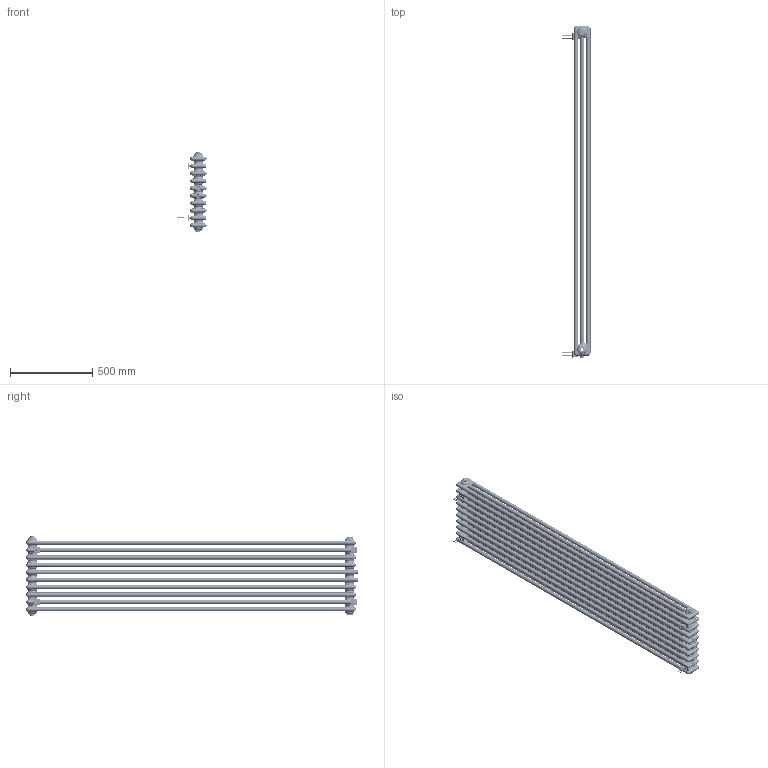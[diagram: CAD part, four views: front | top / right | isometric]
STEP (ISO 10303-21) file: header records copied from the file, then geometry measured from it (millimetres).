
FILE_DESCRIPTION(/* description */ (''),/* implementation_level */ '2;1');
FILE_NAME(/* name */ 'CL03 2000x470',/* time_stamp */ '2023-09-09T16:52:27+08:00',/* author */ (''),/* organization */ (''),/* preprocessor_version */ 'ST-DEVELOPER v9',/* originating_system */ 'UGS - NX 4.0',/* authorisation */ '');
FILE_SCHEMA (('CONFIG_CONTROL_DESIGN'));
Products named in the file (1): AdmiF21Fp0c9
Bounding box: 176.1 x 2013 x 484 mm (x, y, z)
Volume: 5558087.5 mm3; surface area: 9143836.5 mm2
Topology: 41 solids, 41 shells, 4159 faces, 10025 edges, 5949 vertices
Faces by surface type: bspline 1219, cylinder 1153, plane 812, torus 580, cone 395
Full cylindrical faces by diameter (mm): 25 x2
Entity records: 251048 total; most frequent: CARTESIAN_POINT 164242, ORIENTED_EDGE 20018, DIRECTION 15637, EDGE_CURVE 10009, AXIS2_PLACEMENT_3D 6543, VERTEX_POINT 5951, EDGE_LOOP 4364, ADVANCED_FACE 4159
